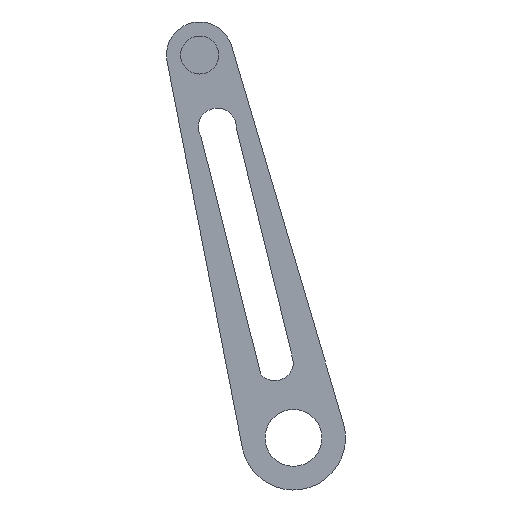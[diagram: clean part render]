
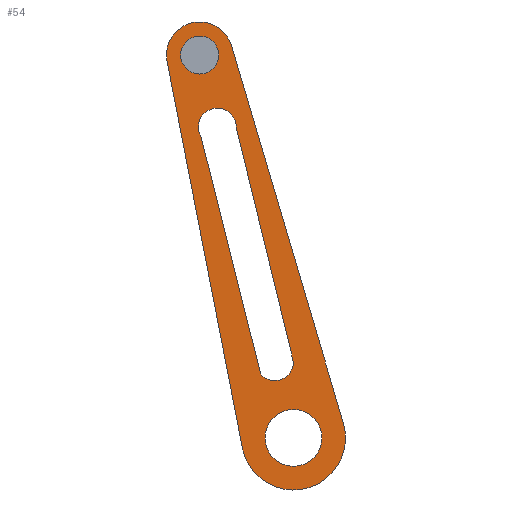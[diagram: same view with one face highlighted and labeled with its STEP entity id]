
A CAD part, front view. The second image highlights one B-rep face of the part: STEP entity #54.
In plain terms, the highlighted planar face has unit normal (0, -1, 0).
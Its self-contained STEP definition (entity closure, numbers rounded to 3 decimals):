
#54=ADVANCED_FACE('',(#77,#79,#81,#83),#85,.F.);
#77=FACE_BOUND('',#78,.T.);
#78=EDGE_LOOP('',(#180,#181,#182,#183));
#79=FACE_BOUND('',#80,.T.);
#80=EDGE_LOOP('',(#184,#185,#186,#187));
#81=FACE_BOUND('',#82,.T.);
#82=EDGE_LOOP('',(#188));
#83=FACE_BOUND('',#84,.T.);
#84=EDGE_LOOP('',(#189));
#85=PLANE('',#86);
#86=AXIS2_PLACEMENT_3D('',#87,#88,#89);
#87=CARTESIAN_POINT('',(0.,5.,0.));
#88=DIRECTION('',(0.,1.,0.));
#89=DIRECTION('',(-1.,0.,0.));
#180=ORIENTED_EDGE('',*,*,#236,.F.);
#181=ORIENTED_EDGE('',*,*,#237,.F.);
#182=ORIENTED_EDGE('',*,*,#238,.F.);
#183=ORIENTED_EDGE('',*,*,#239,.F.);
#184=ORIENTED_EDGE('',*,*,#240,.T.);
#185=ORIENTED_EDGE('',*,*,#241,.T.);
#186=ORIENTED_EDGE('',*,*,#242,.T.);
#187=ORIENTED_EDGE('',*,*,#243,.T.);
#188=ORIENTED_EDGE('',*,*,#244,.T.);
#189=ORIENTED_EDGE('',*,*,#245,.T.);
#236=EDGE_CURVE('',#273,#274,#275,.T.);
#237=EDGE_CURVE('',#276,#273,#277,.T.);
#238=EDGE_CURVE('',#278,#276,#279,.T.);
#239=EDGE_CURVE('',#274,#278,#280,.T.);
#240=EDGE_CURVE('',#281,#282,#283,.T.);
#241=EDGE_CURVE('',#282,#284,#285,.T.);
#242=EDGE_CURVE('',#284,#286,#287,.T.);
#243=EDGE_CURVE('',#286,#281,#288,.T.);
#244=EDGE_CURVE('',#289,#289,#290,.T.);
#245=EDGE_CURVE('',#291,#291,#292,.T.);
#273=VERTEX_POINT('',#344);
#274=VERTEX_POINT('',#345);
#275=CIRCLE('',#346,7.);
#276=VERTEX_POINT('',#350);
#277=LINE('',#351,#352);
#278=VERTEX_POINT('',#354);
#279=CIRCLE('',#355,11.);
#280=LINE('',#359,#360);
#281=VERTEX_POINT('',#362);
#282=VERTEX_POINT('',#363);
#283=LINE('',#364,#365);
#284=VERTEX_POINT('',#367);
#285=CIRCLE('',#368,4.);
#286=VERTEX_POINT('',#372);
#287=LINE('',#373,#374);
#288=CIRCLE('',#376,3.924);
#289=VERTEX_POINT('',#380);
#290=CIRCLE('',#381,6.);
#291=VERTEX_POINT('',#385);
#292=CIRCLE('',#386,4.);
#344=CARTESIAN_POINT('',(-6.871,5.,-21.337));
#345=CARTESIAN_POINT('',(6.711,5.,-18.009));
#346=AXIS2_PLACEMENT_3D('',#347,#348,#349);
#347=CARTESIAN_POINT('',(0.,5.,-20.));
#348=DIRECTION('',(0.,1.,0.));
#349=DIRECTION('',(-0.982,0.,-0.191));
#350=CARTESIAN_POINT('',(9.002,5.,-102.9));
#351=CARTESIAN_POINT('',(9.002,5.,-102.9));
#352=VECTOR('',#353,1.);
#353=DIRECTION('',(-0.191,0.,0.982));
#354=CARTESIAN_POINT('',(30.345,5.,-97.67));
#355=AXIS2_PLACEMENT_3D('',#356,#357,#358);
#356=CARTESIAN_POINT('',(19.799,5.,-100.799));
#357=DIRECTION('',(0.,1.,0.));
#358=DIRECTION('',(0.959,0.,0.284));
#359=CARTESIAN_POINT('',(6.711,5.,-18.009));
#360=VECTOR('',#361,1.);
#361=DIRECTION('',(0.284,0.,-0.959));
#362=CARTESIAN_POINT('',(12.854,5.,-87.29));
#363=CARTESIAN_POINT('',(0.276,5.,-37.225));
#364=CARTESIAN_POINT('',(12.854,5.,-87.29));
#365=VECTOR('',#366,1.);
#366=DIRECTION('',(-0.244,0.,0.97));
#367=CARTESIAN_POINT('',(7.724,5.,-35.196));
#368=AXIS2_PLACEMENT_3D('',#369,#370,#371);
#369=CARTESIAN_POINT('',(3.724,5.,-35.196));
#370=DIRECTION('',(0.,1.,0.));
#371=DIRECTION('',(-0.862,0.,-0.507));
#372=CARTESIAN_POINT('',(19.799,5.,-84.787));
#373=CARTESIAN_POINT('',(7.724,5.,-35.196));
#374=VECTOR('',#375,1.);
#375=DIRECTION('',(0.237,0.,-0.972));
#376=AXIS2_PLACEMENT_3D('',#377,#378,#379);
#377=CARTESIAN_POINT('',(15.875,5.,-84.787));
#378=DIRECTION('',(0.,1.,0.));
#379=DIRECTION('',(1.,0.,0.));
#380=CARTESIAN_POINT('',(13.799,5.,-100.799));
#381=AXIS2_PLACEMENT_3D('',#382,#383,#384);
#382=CARTESIAN_POINT('',(19.799,5.,-100.799));
#383=DIRECTION('',(0.,1.,0.));
#384=DIRECTION('',(-1.,0.,0.));
#385=CARTESIAN_POINT('',(-4.,5.,-20.));
#386=AXIS2_PLACEMENT_3D('',#387,#388,#389);
#387=CARTESIAN_POINT('',(0.,5.,-20.));
#388=DIRECTION('',(0.,1.,0.));
#389=DIRECTION('',(-1.,0.,0.));
